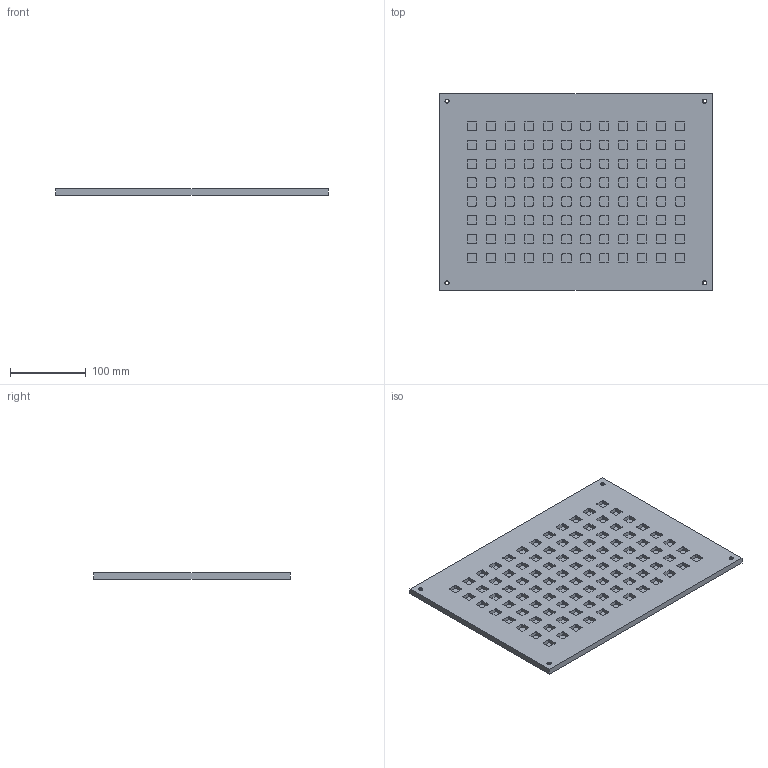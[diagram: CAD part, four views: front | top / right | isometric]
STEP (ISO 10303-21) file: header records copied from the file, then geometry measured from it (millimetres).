
FILE_DESCRIPTION(('FreeCAD Model'),'2;1');
FILE_NAME('Open CASCADE Shape Model','2024-10-28T16:30:18',('Author'),( ''),'Open CASCADE STEP processor 7.6','FreeCAD','Unknown');
FILE_SCHEMA(('AUTOMOTIVE_DESIGN { 1 0 10303 214 1 1 1 1 }'));
Length unit declared in the file: millimetre
Products named in the file (1): Body
Bounding box: 360 x 260 x 8 mm (x, y, z)
Volume: 679344.7 mm3; surface area: 220017.5 mm2
Topology: 1 solids, 1 shells, 1018 faces, 2632 edges, 1712 vertices
Faces by surface type: plane 486, cylinder 424, bspline 108
Full cylindrical faces by diameter (mm): 5.026 x32
Entity records: 44670 total; most frequent: CARTESIAN_POINT 19871, ORIENTED_EDGE 5264, DIRECTION 4974, EDGE_CURVE 2632, VERTEX_POINT 1712, AXIS2_PLACEMENT_3D 1695, LINE 1584, VECTOR 1584
